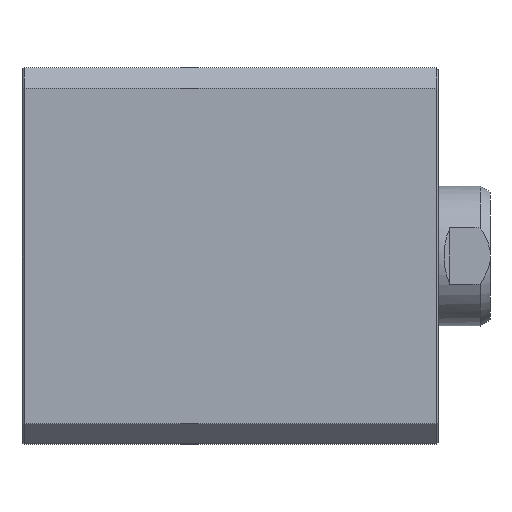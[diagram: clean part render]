
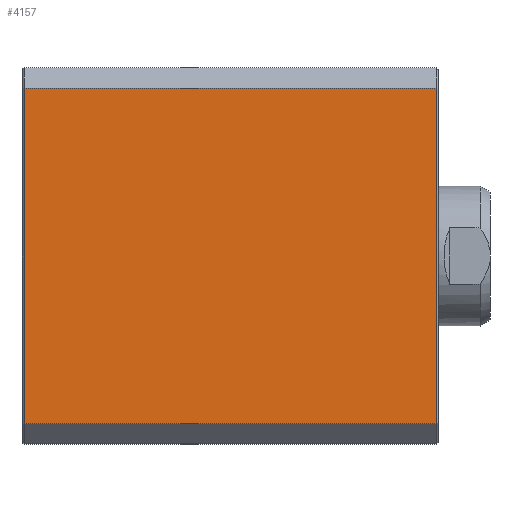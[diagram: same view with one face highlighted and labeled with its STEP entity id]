
A CAD part, left-side view. The second image highlights one B-rep face of the part: STEP entity #4157.
In plain terms, the highlighted planar face has unit normal (-1, 0, 0).
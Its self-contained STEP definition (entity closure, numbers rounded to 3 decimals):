
#151=LINE('',#5836,#445);
#153=LINE('',#5840,#447);
#154=LINE('',#5842,#448);
#155=LINE('',#5844,#449);
#445=VECTOR('',#4779,1000.);
#447=VECTOR('',#4783,1000.);
#448=VECTOR('',#4784,1000.);
#449=VECTOR('',#4785,1000.);
#709=PLANE('',#4383);
#1050=ORIENTED_EDGE('',*,*,#1737,.F.);
#1051=ORIENTED_EDGE('',*,*,#1739,.T.);
#1052=ORIENTED_EDGE('',*,*,#1740,.T.);
#1053=ORIENTED_EDGE('',*,*,#1741,.T.);
#1737=EDGE_CURVE('',#2089,#2090,#151,.T.);
#1739=EDGE_CURVE('',#2089,#2091,#153,.T.);
#1740=EDGE_CURVE('',#2091,#2092,#154,.T.);
#1741=EDGE_CURVE('',#2092,#2090,#155,.T.);
#2089=VERTEX_POINT('',#5835);
#2090=VERTEX_POINT('',#5837);
#2091=VERTEX_POINT('',#5841);
#2092=VERTEX_POINT('',#5843);
#2377=EDGE_LOOP('',(#1050,#1051,#1052,#1053));
#2615=FACE_BOUND('',#2377,.T.);
#4157=ADVANCED_FACE('',(#2615),#709,.T.);
#4383=AXIS2_PLACEMENT_3D('',#5839,#4781,#4782);
#4779=DIRECTION('',(0.,-1.,0.));
#4781=DIRECTION('',(-1.,0.,0.));
#4782=DIRECTION('',(0.,-1.,0.));
#4783=DIRECTION('',(0.,0.,-1.));
#4784=DIRECTION('',(0.,-1.,0.));
#4785=DIRECTION('',(0.,0.,1.));
#5835=CARTESIAN_POINT('',(-47.,103.5,42.));
#5836=CARTESIAN_POINT('',(-47.,94.,42.));
#5837=CARTESIAN_POINT('',(-47.,0.5,42.));
#5839=CARTESIAN_POINT('',(-47.,94.,42.));
#5840=CARTESIAN_POINT('',(-47.,103.5,42.));
#5841=CARTESIAN_POINT('',(-47.,103.5,-42.));
#5842=CARTESIAN_POINT('',(-47.,94.,-42.));
#5843=CARTESIAN_POINT('',(-47.,0.5,-42.));
#5844=CARTESIAN_POINT('',(-47.,0.5,42.));
